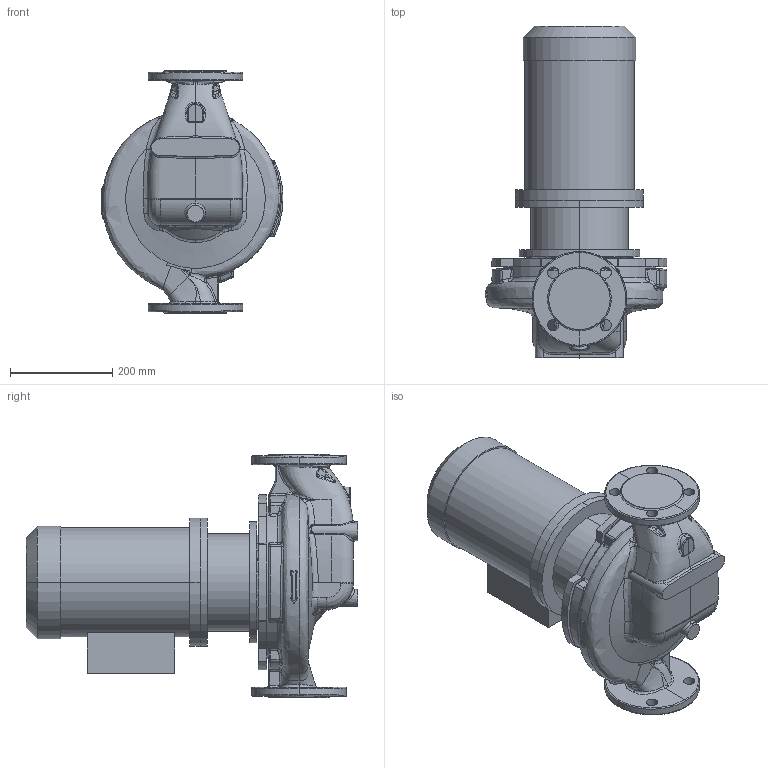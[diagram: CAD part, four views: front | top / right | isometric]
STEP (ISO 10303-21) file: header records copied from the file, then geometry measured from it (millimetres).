
FILE_DESCRIPTION (( 'STEP AP214' ), '1' );
FILE_NAME ('KRL 65-250-4-4.STEP', '2026-03-23T09:24:22', ( '' ), ( '' ), 'SwSTEP 2.0', 'SolidWorks 2016', '' );
FILE_SCHEMA (( 'AUTOMOTIVE_DESIGN' ));
Length unit declared in the file: millimetre
Products named in the file (1): KRL 65-250-4-4
Bounding box: 355.42 x 648.3 x 475 mm (x, y, z)
Volume: 31980934.3 mm3; surface area: 1272769.2 mm2
Topology: 4 solids, 4 shells, 621 faces, 1547 edges, 931 vertices
Faces by surface type: bspline 283, cylinder 133, plane 103, cone 43, torus 31, sphere 28
Entity records: 64465 total; most frequent: CARTESIAN_POINT 45456, ORIENTED_EDGE 3058, DIRECTION 1859, EDGE_CURVE 1529, VERTEX_POINT 931, AXIS2_PLACEMENT_3D 797, EDGE_LOOP 652, B_SPLINE_CURVE_WITH_KNOTS 650
